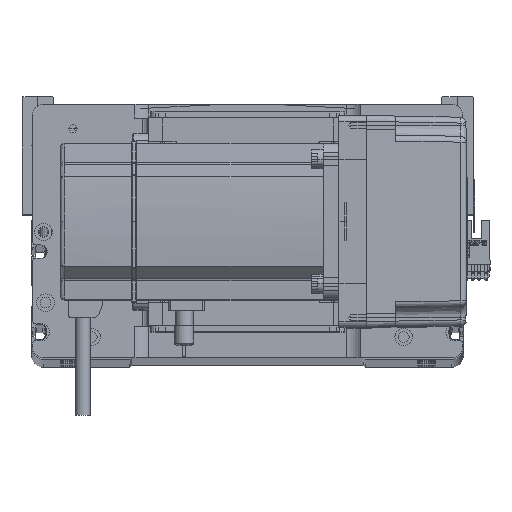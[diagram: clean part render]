
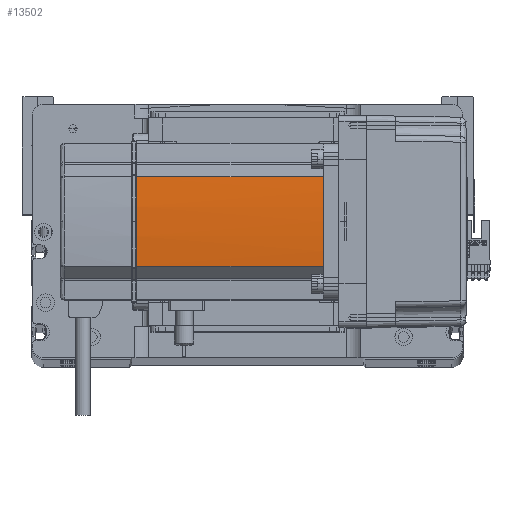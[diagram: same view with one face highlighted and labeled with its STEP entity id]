
A CAD part, top view. The second image highlights one B-rep face of the part: STEP entity #13502.
In plain terms, the highlighted cylindrical face has radius 270 mm (diameter 540 mm), a partial arc.
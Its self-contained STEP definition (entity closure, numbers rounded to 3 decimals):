
#2114 = CARTESIAN_POINT ( 'NONE',  ( -39.042, 22.724, 134. ) ) ;
#2368 = ORIENTED_EDGE ( 'NONE', *, *, #54935, .T. ) ;
#3178 = VERTEX_POINT ( 'NONE', #5539 ) ;
#3395 = CARTESIAN_POINT ( 'NONE',  ( -39.042, -22.724, 134. ) ) ;
#4820 = FACE_OUTER_BOUND ( 'NONE', #49548, .T. ) ;
#5539 = CARTESIAN_POINT ( 'NONE',  ( -39.042, 22.724, 39. ) ) ;
#5540 = CIRCLE ( 'NONE', #43463, 270. ) ;
#6546 = ORIENTED_EDGE ( 'NONE', *, *, #11586, .T. ) ;
#7128 = LINE ( 'NONE', #32136, #9826 ) ;
#9332 = DIRECTION ( 'NONE',  ( 1., 0., 0. ) ) ;
#9826 = VECTOR ( 'NONE', #36531, 1000. ) ;
#9897 = VERTEX_POINT ( 'NONE', #2114 ) ;
#9979 = CARTESIAN_POINT ( 'NONE',  ( 230., 0., 39. ) ) ;
#11586 = EDGE_CURVE ( 'NONE', #9897, #3178, #26059, .T. ) ;
#12470 = DIRECTION ( 'NONE',  ( 0., 0., 1. ) ) ;
#12721 = VERTEX_POINT ( 'NONE', #16646 ) ;
#13230 = VECTOR ( 'NONE', #31428, 1000. ) ;
#13502 = ADVANCED_FACE ( 'NONE', ( #4820 ), #42129, .T. ) ;
#14444 = ORIENTED_EDGE ( 'NONE', *, *, #21594, .T. ) ;
#14581 = ORIENTED_EDGE ( 'NONE', *, *, #24373, .T. ) ;
#15151 = EDGE_CURVE ( 'NONE', #12721, #3178, #29632, .T. ) ;
#16646 = CARTESIAN_POINT ( 'NONE',  ( -39.042, -22.724, 39. ) ) ;
#18061 = CARTESIAN_POINT ( 'NONE',  ( -40., 0., 134. ) ) ;
#18126 = DIRECTION ( 'NONE',  ( 1., 0., 0. ) ) ;
#21524 = DIRECTION ( 'NONE',  ( 1., 0., 0. ) ) ;
#21594 = EDGE_CURVE ( 'NONE', #35876, #52564, #48791, .T. ) ;
#21682 = CARTESIAN_POINT ( 'NONE',  ( 230., 0., 134. ) ) ;
#24373 = EDGE_CURVE ( 'NONE', #12721, #35876, #7128, .T. ) ;
#26059 = LINE ( 'NONE', #44369, #13230 ) ;
#29632 = CIRCLE ( 'NONE', #31003, 270. ) ;
#30494 = DIRECTION ( 'NONE',  ( 0., 0., -1. ) ) ;
#31003 = AXIS2_PLACEMENT_3D ( 'NONE', #9979, #53321, #18126 ) ;
#31428 = DIRECTION ( 'NONE',  ( 0., 0., -1. ) ) ;
#32136 = CARTESIAN_POINT ( 'NONE',  ( -39.042, -22.724, 0. ) ) ;
#35876 = VERTEX_POINT ( 'NONE', #3395 ) ;
#36531 = DIRECTION ( 'NONE',  ( 0., 0., 1. ) ) ;
#41885 = CARTESIAN_POINT ( 'NONE',  ( 230., 0., 0. ) ) ;
#42129 = CYLINDRICAL_SURFACE ( 'NONE', #56010, 270. ) ;
#43463 = AXIS2_PLACEMENT_3D ( 'NONE', #48561, #30494, #9332 ) ;
#43521 = DIRECTION ( 'NONE',  ( 1., 0., 0. ) ) ;
#44369 = CARTESIAN_POINT ( 'NONE',  ( -39.042, 22.724, 0. ) ) ;
#48494 = AXIS2_PLACEMENT_3D ( 'NONE', #21682, #52029, #43521 ) ;
#48561 = CARTESIAN_POINT ( 'NONE',  ( 230., 0., 134. ) ) ;
#48791 = CIRCLE ( 'NONE', #48494, 270. ) ;
#49548 = EDGE_LOOP ( 'NONE', ( #14444, #2368, #6546, #51623, #14581 ) ) ;
#51623 = ORIENTED_EDGE ( 'NONE', *, *, #15151, .F. ) ;
#52029 = DIRECTION ( 'NONE',  ( 0., 0., -1. ) ) ;
#52564 = VERTEX_POINT ( 'NONE', #18061 ) ;
#53321 = DIRECTION ( 'NONE',  ( 0., 0., -1. ) ) ;
#54935 = EDGE_CURVE ( 'NONE', #52564, #9897, #5540, .T. ) ;
#56010 = AXIS2_PLACEMENT_3D ( 'NONE', #41885, #12470, #21524 ) ;
